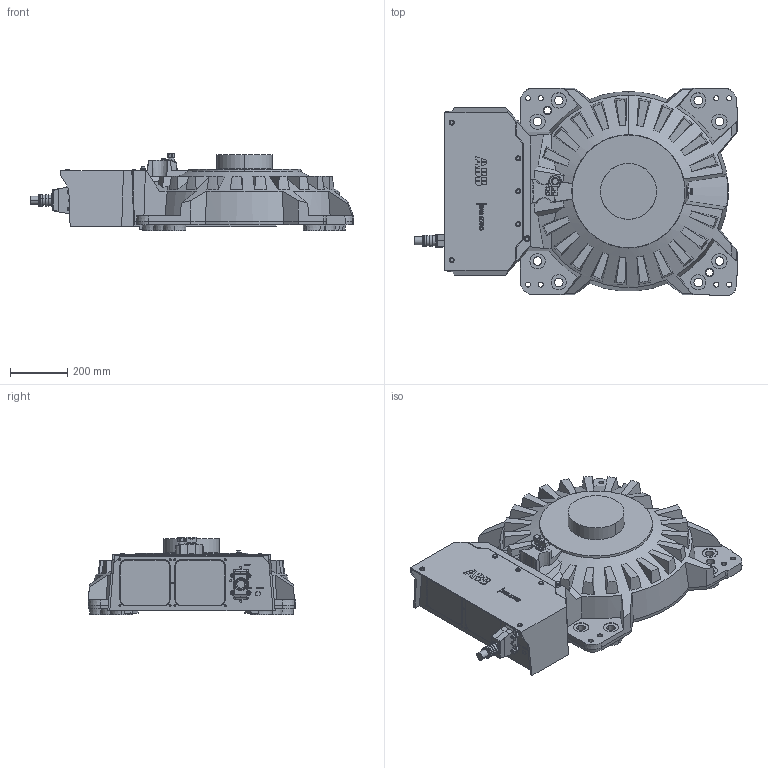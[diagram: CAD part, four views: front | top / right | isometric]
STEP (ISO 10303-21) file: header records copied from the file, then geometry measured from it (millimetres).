
FILE_DESCRIPTION (( 'STEP AP214' ), '1' );
FILE_NAME ('IRB5720-LID_90kg-300_OC_01_BASE_CAD.step', '2025-07-08T10:55:48', ( '' ), ( '' ), 'SwSTEP 2.0', 'SolidWorks 2024', '' );
FILE_SCHEMA (( 'AUTOMOTIVE_DESIGN' ));
Length unit declared in the file: millimetre
Products named in the file (1): IRB5720-LID_90kg-300_OC_01_BASE_CAD
Bounding box: 1128.5 x 724 x 269.5 mm (x, y, z)
Volume: 96498329.9 mm3; surface area: 2209628.6 mm2
Topology: 1 solids, 4 shells, 1224 faces, 3135 edges, 2043 vertices
Faces by surface type: plane 697, cylinder 276, cone 141, bspline 100, torus 6, sphere 4
Entity records: 56084 total; most frequent: CARTESIAN_POINT 13314, ORIENTED_EDGE 6262, DIRECTION 5728, EDGE_CURVE 3131, VERTEX_POINT 2043, AXIS2_PLACEMENT_3D 1944, VECTOR 1840, LINE 1840
